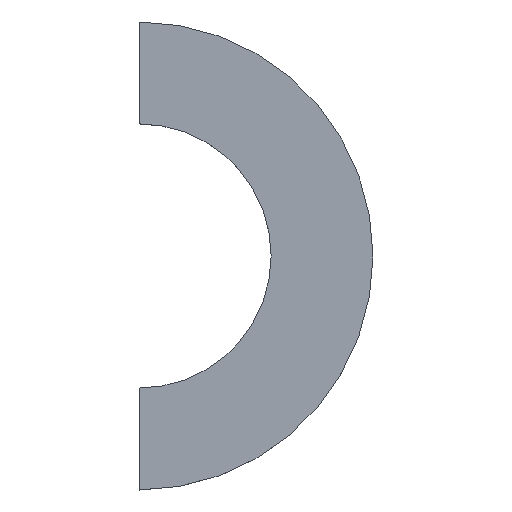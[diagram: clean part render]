
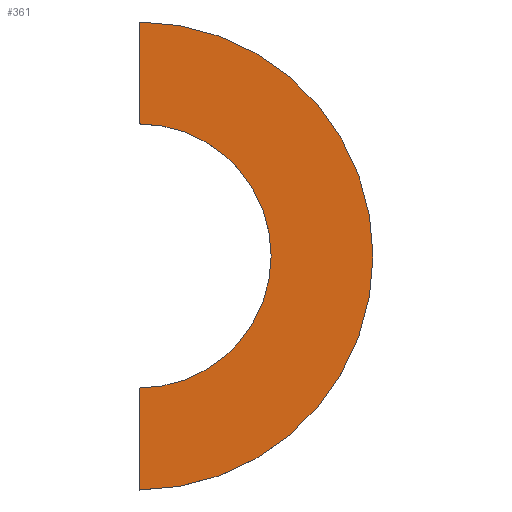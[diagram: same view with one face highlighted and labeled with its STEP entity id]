
A CAD part, top view. The second image highlights one B-rep face of the part: STEP entity #361.
In plain terms, the highlighted planar face has unit normal (0, 0, 1).
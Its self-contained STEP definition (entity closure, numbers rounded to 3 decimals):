
#24 = VERTEX_POINT('',#25);
#25 = CARTESIAN_POINT('',(4.8,0.,6.45));
#32 = CYLINDRICAL_SURFACE('',#33,4.8);
#33 = AXIS2_PLACEMENT_3D('',#34,#35,#36);
#34 = CARTESIAN_POINT('',(0.,0.,6.));
#35 = DIRECTION('',(0.,0.,1.));
#36 = DIRECTION('',(1.,0.,-0.));
#44 = CYLINDRICAL_SURFACE('',#45,4.8);
#45 = AXIS2_PLACEMENT_3D('',#46,#47,#48);
#46 = CARTESIAN_POINT('',(0.,0.,6.));
#47 = DIRECTION('',(0.,0.,1.));
#48 = DIRECTION('',(1.,0.,-0.));
#56 = EDGE_CURVE('',#57,#24,#59,.T.);
#57 = VERTEX_POINT('',#58);
#58 = CARTESIAN_POINT('',(0.,-4.8,6.45));
#59 = SURFACE_CURVE('',#60,(#65,#72),.PCURVE_S1.);
#60 = CIRCLE('',#61,4.8);
#61 = AXIS2_PLACEMENT_3D('',#62,#63,#64);
#62 = CARTESIAN_POINT('',(0.,0.,6.45));
#63 = DIRECTION('',(0.,0.,1.));
#64 = DIRECTION('',(1.,0.,-0.));
#65 = PCURVE('',#32,#66);
#66 = DEFINITIONAL_REPRESENTATION('',(#67),#71);
#67 = LINE('',#68,#69);
#68 = CARTESIAN_POINT('',(0.,0.45));
#69 = VECTOR('',#70,1.);
#70 = DIRECTION('',(1.,0.));
#71 = ( GEOMETRIC_REPRESENTATION_CONTEXT(2) 
PARAMETRIC_REPRESENTATION_CONTEXT() REPRESENTATION_CONTEXT('2D SPACE',''
  ) );
#72 = PCURVE('',#73,#78);
#73 = PLANE('',#74);
#74 = AXIS2_PLACEMENT_3D('',#75,#76,#77);
#75 = CARTESIAN_POINT('',(0.,0.,6.45));
#76 = DIRECTION('',(0.,0.,1.));
#77 = DIRECTION('',(1.,0.,-0.));
#78 = DEFINITIONAL_REPRESENTATION('',(#79),#83);
#79 = CIRCLE('',#80,4.8);
#80 = AXIS2_PLACEMENT_2D('',#81,#82);
#81 = CARTESIAN_POINT('',(0.,0.));
#82 = DIRECTION('',(1.,0.));
#83 = ( GEOMETRIC_REPRESENTATION_CONTEXT(2) 
PARAMETRIC_REPRESENTATION_CONTEXT() REPRESENTATION_CONTEXT('2D SPACE',''
  ) );
#100 = PLANE('',#101);
#101 = AXIS2_PLACEMENT_3D('',#102,#103,#104);
#102 = CARTESIAN_POINT('',(0.,-50.,-50.));
#103 = DIRECTION('',(1.,0.,0.));
#104 = DIRECTION('',(0.,0.,1.));
#141 = EDGE_CURVE('',#24,#142,#144,.T.);
#142 = VERTEX_POINT('',#143);
#143 = CARTESIAN_POINT('',(0.,4.8,6.45));
#144 = SURFACE_CURVE('',#145,(#150,#157),.PCURVE_S1.);
#145 = CIRCLE('',#146,4.8);
#146 = AXIS2_PLACEMENT_3D('',#147,#148,#149);
#147 = CARTESIAN_POINT('',(0.,0.,6.45));
#148 = DIRECTION('',(0.,0.,1.));
#149 = DIRECTION('',(1.,0.,-0.));
#150 = PCURVE('',#44,#151);
#151 = DEFINITIONAL_REPRESENTATION('',(#152),#156);
#152 = LINE('',#153,#154);
#153 = CARTESIAN_POINT('',(0.,0.45));
#154 = VECTOR('',#155,1.);
#155 = DIRECTION('',(1.,0.));
#156 = ( GEOMETRIC_REPRESENTATION_CONTEXT(2) 
PARAMETRIC_REPRESENTATION_CONTEXT() REPRESENTATION_CONTEXT('2D SPACE',''
  ) );
#157 = PCURVE('',#73,#158);
#158 = DEFINITIONAL_REPRESENTATION('',(#159),#163);
#159 = CIRCLE('',#160,4.8);
#160 = AXIS2_PLACEMENT_2D('',#161,#162);
#161 = CARTESIAN_POINT('',(0.,0.));
#162 = DIRECTION('',(1.,0.));
#163 = ( GEOMETRIC_REPRESENTATION_CONTEXT(2) 
PARAMETRIC_REPRESENTATION_CONTEXT() REPRESENTATION_CONTEXT('2D SPACE',''
  ) );
#203 = PLANE('',#204);
#204 = AXIS2_PLACEMENT_3D('',#205,#206,#207);
#205 = CARTESIAN_POINT('',(0.,-50.,-50.));
#206 = DIRECTION('',(1.,0.,0.));
#207 = DIRECTION('',(0.,0.,1.));
#257 = CYLINDRICAL_SURFACE('',#258,2.71);
#258 = AXIS2_PLACEMENT_3D('',#259,#260,#261);
#259 = CARTESIAN_POINT('',(0.,0.,5.99));
#260 = DIRECTION('',(0.,0.,1.));
#261 = DIRECTION('',(1.,0.,-0.));
#286 = CYLINDRICAL_SURFACE('',#287,2.71);
#287 = AXIS2_PLACEMENT_3D('',#288,#289,#290);
#288 = CARTESIAN_POINT('',(0.,0.,5.99));
#289 = DIRECTION('',(0.,0.,1.));
#290 = DIRECTION('',(1.,0.,-0.));
#323 = VERTEX_POINT('',#324);
#324 = CARTESIAN_POINT('',(0.,-2.71,6.45));
#343 = EDGE_CURVE('',#57,#323,#344,.T.);
#344 = SURFACE_CURVE('',#345,(#349,#355),.PCURVE_S1.);
#345 = LINE('',#346,#347);
#346 = CARTESIAN_POINT('',(0.,-25.,6.45));
#347 = VECTOR('',#348,1.);
#348 = DIRECTION('',(0.,1.,0.));
#349 = PCURVE('',#100,#350);
#350 = DEFINITIONAL_REPRESENTATION('',(#351),#354);
#351 = B_SPLINE_CURVE_WITH_KNOTS('',1,(#352,#353),.UNSPECIFIED.,.F.,.F.,
  (2,2),(20.2,29.8),.PIECEWISE_BEZIER_KNOTS.);
#352 = CARTESIAN_POINT('',(56.45,-45.2));
#353 = CARTESIAN_POINT('',(56.45,-54.8));
#354 = ( GEOMETRIC_REPRESENTATION_CONTEXT(2) 
PARAMETRIC_REPRESENTATION_CONTEXT() REPRESENTATION_CONTEXT('2D SPACE',''
  ) );
#355 = PCURVE('',#73,#356);
#356 = DEFINITIONAL_REPRESENTATION('',(#357),#360);
#357 = B_SPLINE_CURVE_WITH_KNOTS('',1,(#358,#359),.UNSPECIFIED.,.F.,.F.,
  (2,2),(20.2,29.8),.PIECEWISE_BEZIER_KNOTS.);
#358 = CARTESIAN_POINT('',(0.,-4.8));
#359 = CARTESIAN_POINT('',(0.,4.8));
#360 = ( GEOMETRIC_REPRESENTATION_CONTEXT(2) 
PARAMETRIC_REPRESENTATION_CONTEXT() REPRESENTATION_CONTEXT('2D SPACE',''
  ) );
#361 = ADVANCED_FACE('',(#362),#73,.T.);
#362 = FACE_BOUND('',#363,.T.);
#363 = EDGE_LOOP('',(#364,#365,#366,#387,#411,#433));
#364 = ORIENTED_EDGE('',*,*,#56,.T.);
#365 = ORIENTED_EDGE('',*,*,#141,.T.);
#366 = ORIENTED_EDGE('',*,*,#367,.F.);
#367 = EDGE_CURVE('',#368,#142,#370,.T.);
#368 = VERTEX_POINT('',#369);
#369 = CARTESIAN_POINT('',(0.,2.71,6.45));
#370 = SURFACE_CURVE('',#371,(#375,#381),.PCURVE_S1.);
#371 = LINE('',#372,#373);
#372 = CARTESIAN_POINT('',(0.,-25.,6.45));
#373 = VECTOR('',#374,1.);
#374 = DIRECTION('',(0.,1.,0.));
#375 = PCURVE('',#73,#376);
#376 = DEFINITIONAL_REPRESENTATION('',(#377),#380);
#377 = B_SPLINE_CURVE_WITH_KNOTS('',1,(#378,#379),.UNSPECIFIED.,.F.,.F.,
  (2,2),(20.2,29.8),.PIECEWISE_BEZIER_KNOTS.);
#378 = CARTESIAN_POINT('',(0.,-4.8));
#379 = CARTESIAN_POINT('',(0.,4.8));
#380 = ( GEOMETRIC_REPRESENTATION_CONTEXT(2) 
PARAMETRIC_REPRESENTATION_CONTEXT() REPRESENTATION_CONTEXT('2D SPACE',''
  ) );
#381 = PCURVE('',#203,#382);
#382 = DEFINITIONAL_REPRESENTATION('',(#383),#386);
#383 = B_SPLINE_CURVE_WITH_KNOTS('',1,(#384,#385),.UNSPECIFIED.,.F.,.F.,
  (2,2),(20.2,29.8),.PIECEWISE_BEZIER_KNOTS.);
#384 = CARTESIAN_POINT('',(56.45,-45.2));
#385 = CARTESIAN_POINT('',(56.45,-54.8));
#386 = ( GEOMETRIC_REPRESENTATION_CONTEXT(2) 
PARAMETRIC_REPRESENTATION_CONTEXT() REPRESENTATION_CONTEXT('2D SPACE',''
  ) );
#387 = ORIENTED_EDGE('',*,*,#388,.F.);
#388 = EDGE_CURVE('',#389,#368,#391,.T.);
#389 = VERTEX_POINT('',#390);
#390 = CARTESIAN_POINT('',(2.71,0.,6.45));
#391 = SURFACE_CURVE('',#392,(#397,#404),.PCURVE_S1.);
#392 = CIRCLE('',#393,2.71);
#393 = AXIS2_PLACEMENT_3D('',#394,#395,#396);
#394 = CARTESIAN_POINT('',(0.,0.,6.45));
#395 = DIRECTION('',(0.,0.,1.));
#396 = DIRECTION('',(1.,0.,-0.));
#397 = PCURVE('',#73,#398);
#398 = DEFINITIONAL_REPRESENTATION('',(#399),#403);
#399 = CIRCLE('',#400,2.71);
#400 = AXIS2_PLACEMENT_2D('',#401,#402);
#401 = CARTESIAN_POINT('',(0.,0.));
#402 = DIRECTION('',(1.,0.));
#403 = ( GEOMETRIC_REPRESENTATION_CONTEXT(2) 
PARAMETRIC_REPRESENTATION_CONTEXT() REPRESENTATION_CONTEXT('2D SPACE',''
  ) );
#404 = PCURVE('',#257,#405);
#405 = DEFINITIONAL_REPRESENTATION('',(#406),#410);
#406 = LINE('',#407,#408);
#407 = CARTESIAN_POINT('',(0.,0.46));
#408 = VECTOR('',#409,1.);
#409 = DIRECTION('',(1.,0.));
#410 = ( GEOMETRIC_REPRESENTATION_CONTEXT(2) 
PARAMETRIC_REPRESENTATION_CONTEXT() REPRESENTATION_CONTEXT('2D SPACE',''
  ) );
#411 = ORIENTED_EDGE('',*,*,#412,.F.);
#412 = EDGE_CURVE('',#323,#389,#413,.T.);
#413 = SURFACE_CURVE('',#414,(#419,#426),.PCURVE_S1.);
#414 = CIRCLE('',#415,2.71);
#415 = AXIS2_PLACEMENT_3D('',#416,#417,#418);
#416 = CARTESIAN_POINT('',(0.,0.,6.45));
#417 = DIRECTION('',(0.,0.,1.));
#418 = DIRECTION('',(1.,0.,-0.));
#419 = PCURVE('',#73,#420);
#420 = DEFINITIONAL_REPRESENTATION('',(#421),#425);
#421 = CIRCLE('',#422,2.71);
#422 = AXIS2_PLACEMENT_2D('',#423,#424);
#423 = CARTESIAN_POINT('',(0.,0.));
#424 = DIRECTION('',(1.,0.));
#425 = ( GEOMETRIC_REPRESENTATION_CONTEXT(2) 
PARAMETRIC_REPRESENTATION_CONTEXT() REPRESENTATION_CONTEXT('2D SPACE',''
  ) );
#426 = PCURVE('',#286,#427);
#427 = DEFINITIONAL_REPRESENTATION('',(#428),#432);
#428 = LINE('',#429,#430);
#429 = CARTESIAN_POINT('',(0.,0.46));
#430 = VECTOR('',#431,1.);
#431 = DIRECTION('',(1.,0.));
#432 = ( GEOMETRIC_REPRESENTATION_CONTEXT(2) 
PARAMETRIC_REPRESENTATION_CONTEXT() REPRESENTATION_CONTEXT('2D SPACE',''
  ) );
#433 = ORIENTED_EDGE('',*,*,#343,.F.);
